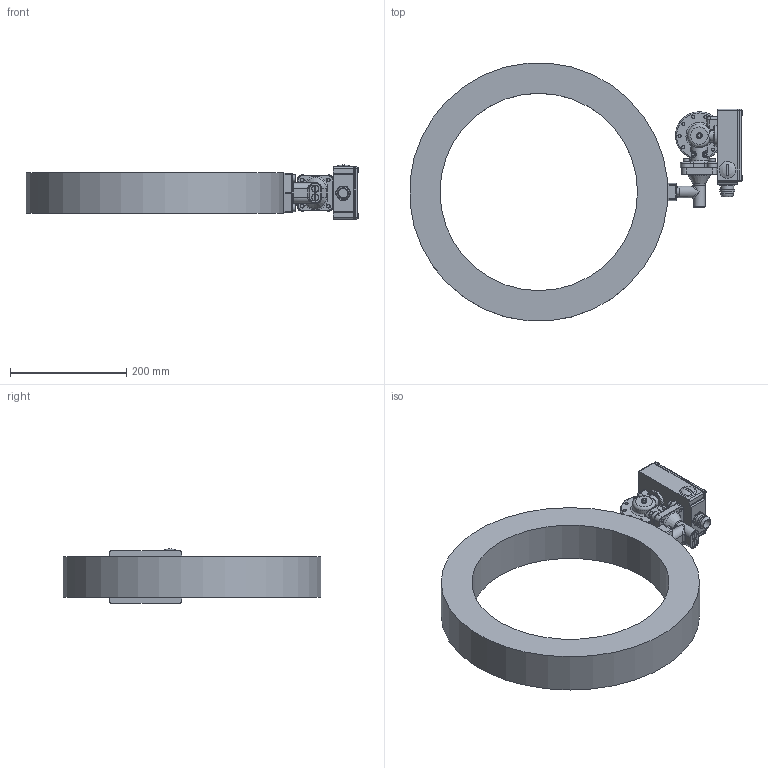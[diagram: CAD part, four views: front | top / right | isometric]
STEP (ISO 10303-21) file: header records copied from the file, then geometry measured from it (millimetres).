
FILE_DESCRIPTION(/* description */ ('Alibre Inc.'),/* implementation_level */ '2;1');
FILE_NAME(/* name */ 'export0',/* time_stamp */ '2012-10-15T13:35:50+02:00',/* author */ (''),/* organization */ (''),/* preprocessor_version */ 'ST-DEVELOPER v14',/* originating_system */ 'Alibre',/* authorisation */ '');
FILE_SCHEMA (('CONFIG_CONTROL_DESIGN'));
Length unit declared in the file: centimetre
Products named in the file (13): ID_1; ID_2; ID_3; ID_4; ID_5; ID_6; ID_7; ID_8; ID_9
Bounding box: 571.66 x 443.46 x 93.66 mm (x, y, z)
Volume: 4923422 mm3; surface area: 472827.8 mm2
Topology: 29 solids, 29 shells, 1088 faces, 2566 edges, 1617 vertices
Faces by surface type: plane 538, cylinder 249, bspline 168, torus 65, cone 63, sphere 5
Full cylindrical faces by diameter (mm): 5 x23, 5.5 x18, 6 x12, 6.038 x2, 6.5 x4, 7.5 x1, 8 x16, 8.3 x9, 8.5 x2, 8.7 x2, 9.6 x4, 10 x4, 11.75 x2, 11.85 x1, 12 x2, 13 x2, 14 x2, 16 x1, 17.966 x1, 22 x2, 22.5 x4, 31 x1, 32 x1, 47 x1, 56 x2, 340 x1
Entity records: 34253 total; most frequent: CARTESIAN_POINT 13975, ORIENTED_EDGE 3906, DIRECTION 3161, EDGE_CURVE 1953, VERTEX_POINT 1303, AXIS2_PLACEMENT_3D 1291, EDGE_LOOP 1134, FACE_BOUND 1134
